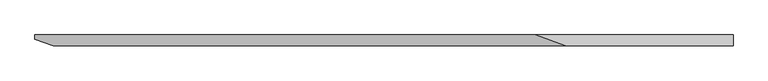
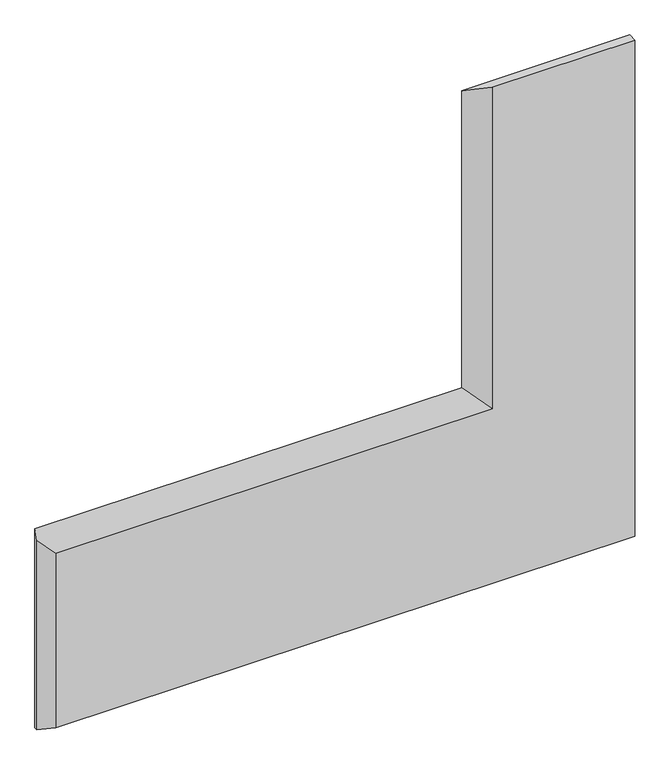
"""IFC4 building model written with IfcOpenShell, lengths in millimetres: proxy geometry, ELEVATE^ADMIN_84.5x74.5-BOOM LT WORKSURFACE."""

from ifc_helpers import new_model, si_unit, origin, place, context, project, spatial, faceted_brep, source, transform, mapped, element, save


def generic_models_80a12a30(model_context):
    return source(origin(), model_context, "Body", "Brep", [
        faceted_brep([(56.7010652, 0.0, 667.1989348), (1631.5010652, 0.0, 667.1989348), (1539.9070368, 33.3375, 758.7929632), (0.0, 33.3375, 758.7929632), (0.0, 20.6375, 723.9), (1631.5010652, 0.0, 1892.3), (1539.9070368, 33.3375, 1892.3), (0.0, 33.3375, 0.0), (0.0, 20.6375, 0.0), (2146.3, 33.3375, 1892.3), (2146.3, 0.0, 1892.3), (56.7010652, 0.0, 0.0), (2146.3, 33.3375, 0.0), (2146.3, 0.0, 0.0)], [[[0, 1, 2, 3, 4]], [[1, 5, 6, 2]], [[4, 3, 7, 8]], [[9, 6, 5, 10]], [[0, 4, 8, 11]], [[11, 8, 7, 12, 13]], [[10, 13, 12, 9]], [[9, 12, 7, 3, 2, 6]], [[1, 0, 11, 13, 10, 5]]]),
    ])


if __name__ == "__main__":
    model = new_model("IFC4")
    model_context = context("Model", 3, world=origin())
    ifc_project = project(units=[si_unit("LENGTHUNIT", "METRE", prefix="MILLI")], contexts=[model_context])
    site = spatial("IfcSite", under=ifc_project)
    building = spatial("IfcBuilding", under=site)
    placement = place(None, origin())
    generic_models_shape = generic_models_80a12a30(model_context)
    element("IfcBuildingElementProxy", 1, Name="ELEVATE^ADMIN_84.5x74.5-BOOM LT WORKSURFACE", ObjectType="ELEVATE^ADMIN_84.5x74.5-BOOM LT WORKSURFACE", at=placement, inside=building, context=model_context, shape_type="MappedRepresentation", body=[
        mapped(generic_models_shape, transform((0.0, 0.0, 0.0), x_axis=(1.0, 0.0, 0.0), y_axis=(0.0, 1.0, 0.0), z_axis=(0.0, 0.0, 1.0))),
    ])
    save(model, "model.ifc")
